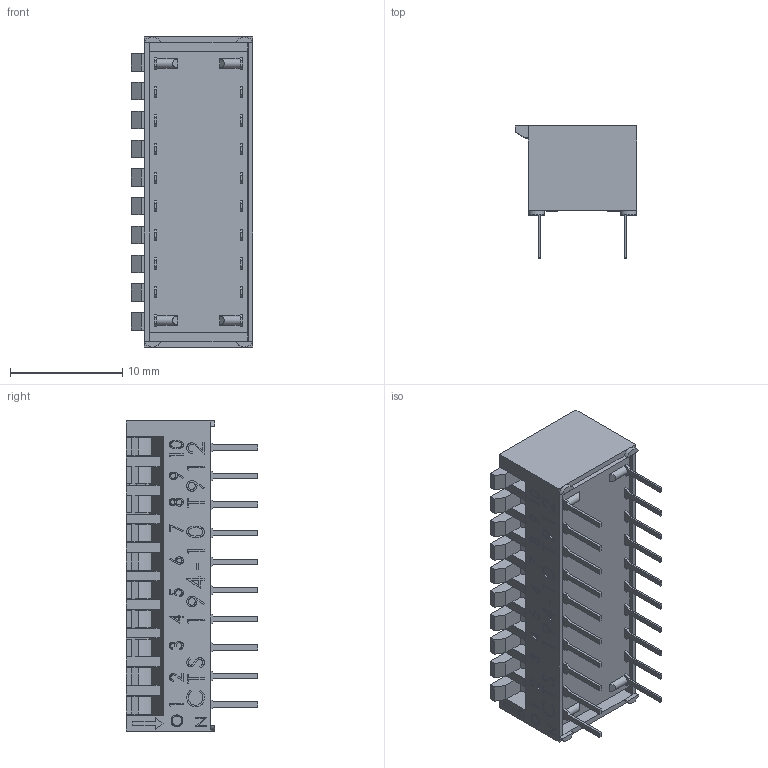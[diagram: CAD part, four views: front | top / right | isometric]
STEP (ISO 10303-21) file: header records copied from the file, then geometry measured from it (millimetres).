
FILE_DESCRIPTION (( 'STEP AP214' ), '1' );
FILE_NAME ('194-10MS.STEP', '2019-05-24T05:57:38', ( '' ), ( '' ), 'SwSTEP 2.0', 'SolidWorks 2019', '' );
FILE_SCHEMA (( 'AUTOMOTIVE_DESIGN' ));
Length unit declared in the file: millimetre
Products named in the file (4): 194-10 pole assembly; 194-10MS; 193-56-001; 194-40-110-40-01
Assembly tree (12 placements, depth 2):
  194-10MS
    194-40-110-40-01
    193-56-001  x10
    194-10 pole assembly
Bounding box: 10.79 x 11.71 x 27.58 mm (x, y, z)
Volume: 1383.3 mm3; surface area: 3088.2 mm2
Topology: 12 solids, 12 shells, 745 faces, 2030 edges, 1348 vertices
Faces by surface type: plane 550, bspline 137, cylinder 58
Entity records: 31452 total; most frequent: CARTESIAN_POINT 12521, ORIENTED_EDGE 3520, DIRECTION 2560, EDGE_CURVE 1760, VECTOR 1434, LINE 1434, VERTEX_POINT 1168, EDGE_LOOP 696
